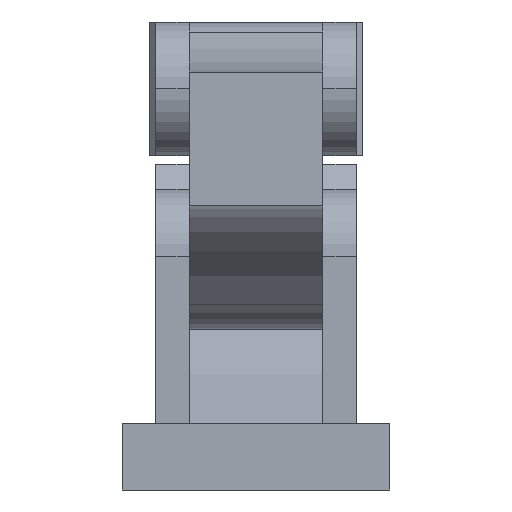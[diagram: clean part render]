
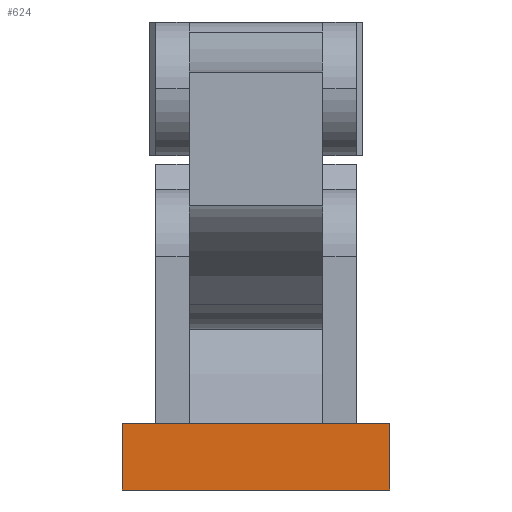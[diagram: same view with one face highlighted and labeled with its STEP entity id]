
A CAD part, left-side view. The second image highlights one B-rep face of the part: STEP entity #624.
In plain terms, the highlighted planar face has unit normal (-1, 0, 0).
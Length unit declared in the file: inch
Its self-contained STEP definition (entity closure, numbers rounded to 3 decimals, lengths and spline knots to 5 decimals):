
#624 = ADVANCED_FACE( '', ( #861 ), #862, .T. );
#861 = FACE_OUTER_BOUND( '', #1191, .T. );
#862 = PLANE( '', #1192 );
#1191 = EDGE_LOOP( '', ( #1963, #1964, #1965, #1966 ) );
#1192 = AXIS2_PLACEMENT_3D( '', #1967, #1968, #1969 );
#1963 = ORIENTED_EDGE( '', *, *, #2827, .F. );
#1964 = ORIENTED_EDGE( '', *, *, #2828, .T. );
#1965 = ORIENTED_EDGE( '', *, *, #2829, .T. );
#1966 = ORIENTED_EDGE( '', *, *, #2824, .F. );
#1967 = CARTESIAN_POINT( '', ( -0.62539, 0.5, -0.25 ) );
#1968 = DIRECTION( '', ( -1., 0., 0. ) );
#1969 = DIRECTION( '', ( 0., 0., 1. ) );
#2824 = EDGE_CURVE( '', #3367, #3362, #3369, .T. );
#2827 = EDGE_CURVE( '', #3372, #3367, #3373, .T. );
#2828 = EDGE_CURVE( '', #3372, #3374, #3375, .T. );
#2829 = EDGE_CURVE( '', #3374, #3362, #3376, .T. );
#3362 = VERTEX_POINT( '', #4139 );
#3367 = VERTEX_POINT( '', #4146 );
#3369 = LINE( '', #4149, #4150 );
#3372 = VERTEX_POINT( '', #4153 );
#3373 = LINE( '', #4154, #4155 );
#3374 = VERTEX_POINT( '', #4156 );
#3375 = LINE( '', #4157, #4158 );
#3376 = LINE( '', #4159, #4160 );
#4139 = CARTESIAN_POINT( '', ( -0.62539, 0.5, -0.25 ) );
#4146 = CARTESIAN_POINT( '', ( -0.62539, -0.5, -0.25 ) );
#4149 = CARTESIAN_POINT( '', ( -0.62539, -0.5, -0.25 ) );
#4150 = VECTOR( '', #5044, 1. );
#4153 = CARTESIAN_POINT( '', ( -0.62539, -0.5, 0. ) );
#4154 = CARTESIAN_POINT( '', ( -0.62539, -0.5, 0. ) );
#4155 = VECTOR( '', #5051, 1. );
#4156 = CARTESIAN_POINT( '', ( -0.62539, 0.5, 0. ) );
#4157 = CARTESIAN_POINT( '', ( -0.62539, -0.5, 0. ) );
#4158 = VECTOR( '', #5052, 1. );
#4159 = CARTESIAN_POINT( '', ( -0.62539, 0.5, 0. ) );
#4160 = VECTOR( '', #5053, 1. );
#5044 = DIRECTION( '', ( 0., 1., 0. ) );
#5051 = DIRECTION( '', ( 0., 0., -1. ) );
#5052 = DIRECTION( '', ( 0., 1., 0. ) );
#5053 = DIRECTION( '', ( 0., 0., -1. ) );
